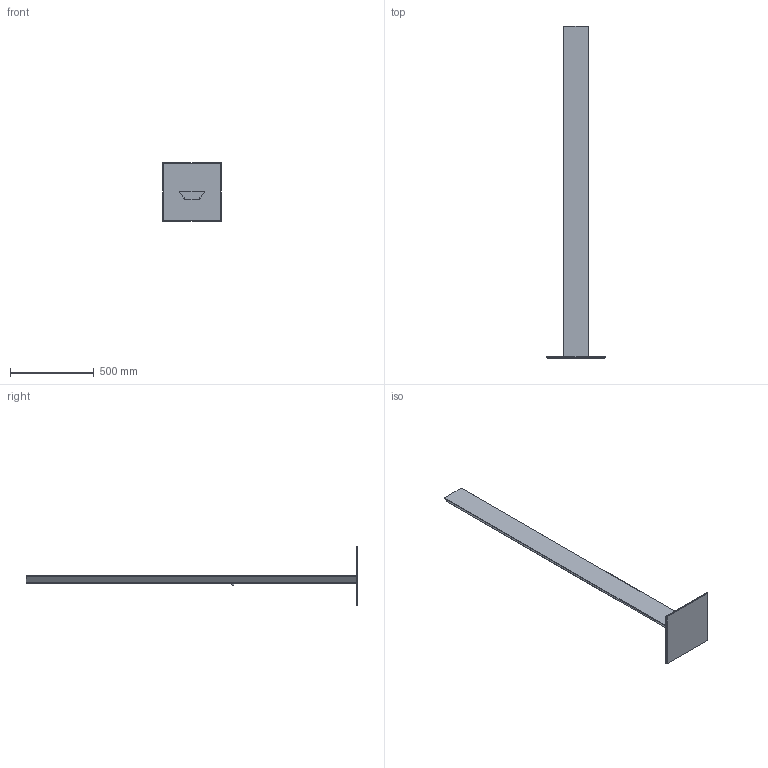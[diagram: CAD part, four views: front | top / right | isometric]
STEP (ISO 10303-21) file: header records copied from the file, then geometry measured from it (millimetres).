
FILE_DESCRIPTION(/* description */ (''),/* implementation_level */ '2;1');
FILE_NAME(/* name */ 'C:\Users\Giulia\Desktop\1342 - MOVIE.stp',/* time_stamp */ '2015-04-23T10:10:39+02:00',/* author */ ('Giulia'),/* organization */ (''),/* preprocessor_version */ 'ST-DEVELOPER v15.6',/* originating_system */ 'Autodesk Inventor 2015',/* authorisation */ '');
FILE_SCHEMA (('AUTOMOTIVE_DESIGN { 1 0 10303 214 3 1 1 }'));
Length unit declared in the file: centimetre
Products named in the file (1): 1342 - MOVIE
Bounding box: 350 x 1979.5 x 350 mm (x, y, z)
Volume: 10993077.3 mm3; surface area: 943002 mm2
Topology: 1 solids, 1 shells, 47 faces, 111 edges, 74 vertices
Faces by surface type: plane 24, cylinder 17, cone 3, torus 3
Full cylindrical faces by diameter (mm): 14 x3
Entity records: 1320 total; most frequent: DIRECTION 238, CARTESIAN_POINT 218, ORIENTED_EDGE 198, EDGE_CURVE 99, AXIS2_PLACEMENT_3D 91, VERTEX_POINT 71, EDGE_LOOP 64, LINE 56
